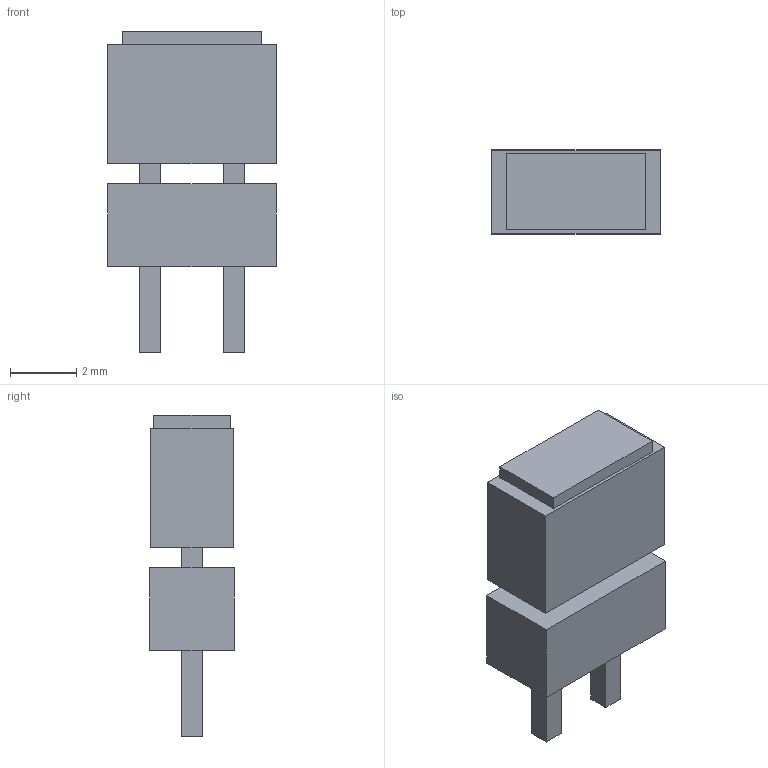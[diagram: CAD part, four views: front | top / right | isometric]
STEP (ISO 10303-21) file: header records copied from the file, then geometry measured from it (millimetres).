
FILE_DESCRIPTION(('FreeCAD Model'),'2;1');
FILE_NAME('Open CASCADE Shape Model','2026-09-21T21:53:17',('FreeCAD'),( 'FreeCAD'),'Open CASCADE STEP processor 7.8','FreeCAD','Unknown');
FILE_SCHEMA(('AUTOMOTIVE_DESIGN { 1 0 10303 214 1 1 1 1 }'));
Length unit declared in the file: millimetre
Products named in the file (1): Open CASCADE STEP translator 7.8 19
Bounding box: 5.1 x 2.54 x 9.7 mm (x, y, z)
Volume: 89 mm3; surface area: 213.8 mm2
Topology: 5 solids, 5 shells, 30 faces, 60 edges, 40 vertices
Faces by surface type: plane 30
Entity records: 766 total; most frequent: CARTESIAN_POINT 131, DIRECTION 122, ORIENTED_EDGE 120, EDGE_CURVE 60, LINE 60, VECTOR 60, VERTEX_POINT 40, AXIS2_PLACEMENT_3D 31
